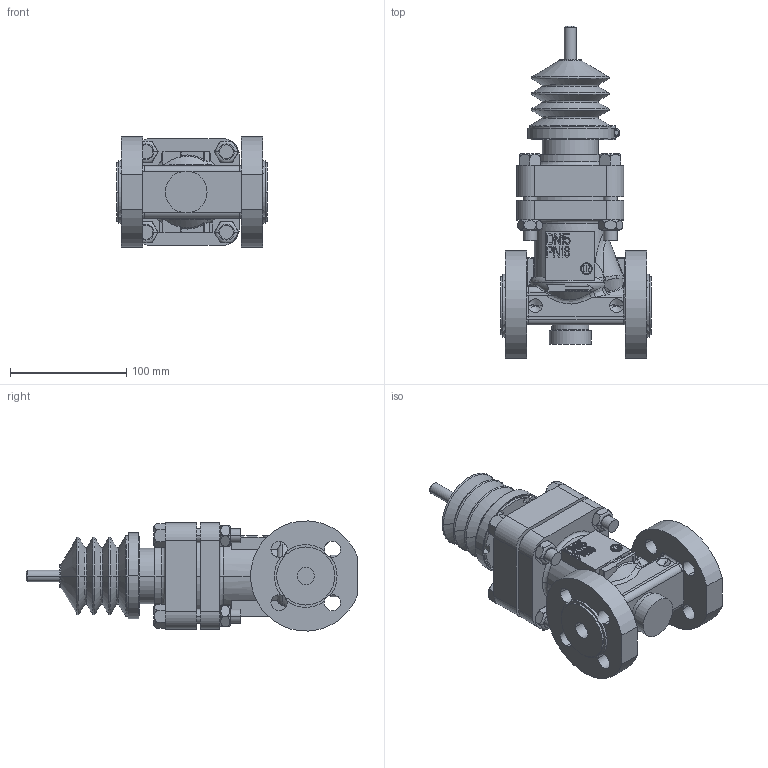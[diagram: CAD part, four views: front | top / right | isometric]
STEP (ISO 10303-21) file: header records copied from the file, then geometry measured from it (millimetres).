
FILE_DESCRIPTION((''),'2;1');
FILE_NAME('9560-00-5001_A_ASM','2014-04-15T',('SParmar1'),(''),'PRO/ENGINEER BY PARAMETRIC TECHNOLOGY CORPORATION, 2011040','PRO/ENGINEER BY PARAMETRIC TECHNOLOGY CORPORATION, 2011040','');
FILE_SCHEMA(('CONFIG_CONTROL_DESIGN'));
Products named in the file (6): 9567-11-2060; 9568-27-1204; 4188_11_1060; M12_X_65; M12_X_HEX_NUT; 9560-00-5001_A_ASM
Assembly tree (11 placements, depth 2):
  9560-00-5001_A_ASM
    9567-11-2060
    9568-27-1204
    4188_11_1060
    M12_X_65  x4
    M12_X_HEX_NUT  x4
Bounding box: 130 x 286 x 94.88 mm (x, y, z)
Volume: 1109094.7 mm3; surface area: 212871.8 mm2
Topology: 13 solids, 14 shells, 2522 faces, 6943 edges, 4545 vertices
Faces by surface type: plane 2100, cylinder 222, torus 80, cone 63, bspline 50, sphere 7
Entity records: 79441 total; most frequent: CARTESIAN_POINT 16859, ORIENTED_EDGE 13502, DIRECTION 11998, EDGE_CURVE 6751, VECTOR 5898, LINE 5898, VERTEX_POINT 4431, AXIS2_PLACEMENT_3D 3050
